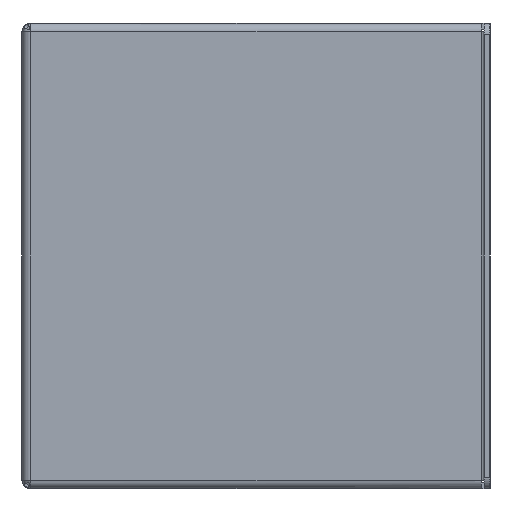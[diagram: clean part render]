
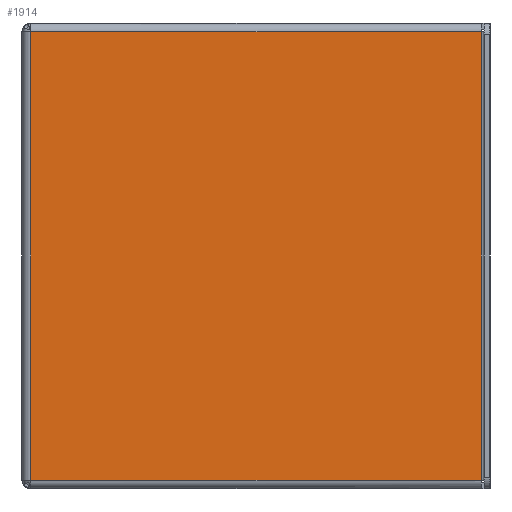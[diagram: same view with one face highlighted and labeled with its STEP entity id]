
A CAD part, left-side view. The second image highlights one B-rep face of the part: STEP entity #1914.
In plain terms, the highlighted planar face has unit normal (-1, 0, 0).
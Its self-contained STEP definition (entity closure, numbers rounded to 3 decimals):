
#308=ORIENTED_EDGE('',*,*,#844,.F.);
#309=ORIENTED_EDGE('',*,*,#845,.T.);
#310=ORIENTED_EDGE('',*,*,#834,.F.);
#311=ORIENTED_EDGE('',*,*,#822,.T.);
#822=EDGE_CURVE('',#1080,#1061,#1216,.T.);
#834=EDGE_CURVE('',#1080,#1088,#1221,.T.);
#844=EDGE_CURVE('',#1064,#1061,#1228,.T.);
#845=EDGE_CURVE('',#1064,#1088,#1229,.T.);
#1061=VERTEX_POINT('',#2934);
#1064=VERTEX_POINT('',#2943);
#1080=VERTEX_POINT('',#2986);
#1088=VERTEX_POINT('',#3018);
#1216=LINE('',#2985,#1412);
#1221=LINE('',#3017,#1417);
#1228=LINE('',#3035,#1424);
#1229=LINE('',#3036,#1425);
#1412=VECTOR('',#2395,1000.);
#1417=VECTOR('',#2418,1000.);
#1424=VECTOR('',#2439,1000.);
#1425=VECTOR('',#2440,1000.);
#1564=EDGE_LOOP('',(#308,#309,#310,#311));
#1706=FACE_BOUND('',#1564,.T.);
#1832=PLANE('',#2097);
#1914=ADVANCED_FACE('',(#1706),#1832,.T.);
#2097=AXIS2_PLACEMENT_3D('',#3034,#2437,#2438);
#2395=DIRECTION('',(0.,-1.,0.));
#2418=DIRECTION('',(0.,0.,1.));
#2437=DIRECTION('',(-1.,0.,0.));
#2438=DIRECTION('',(0.,0.,1.));
#2439=DIRECTION('',(0.,0.,-1.));
#2440=DIRECTION('',(0.,1.,0.));
#2934=CARTESIAN_POINT('',(-215.9,-130.912,-63.83));
#2943=CARTESIAN_POINT('',(-215.9,-130.912,63.83));
#2985=CARTESIAN_POINT('',(-215.9,-2.438,-63.83));
#2986=CARTESIAN_POINT('',(-215.9,-2.438,-63.83));
#3017=CARTESIAN_POINT('',(-215.9,-2.438,-66.269));
#3018=CARTESIAN_POINT('',(-215.9,-2.438,63.83));
#3034=CARTESIAN_POINT('',(-215.9,0.,-66.269));
#3035=CARTESIAN_POINT('',(-215.9,-130.912,63.83));
#3036=CARTESIAN_POINT('',(-215.9,-131.724,63.83));
